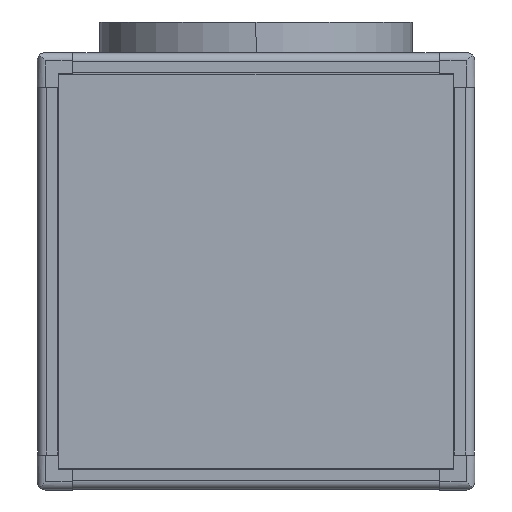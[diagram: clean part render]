
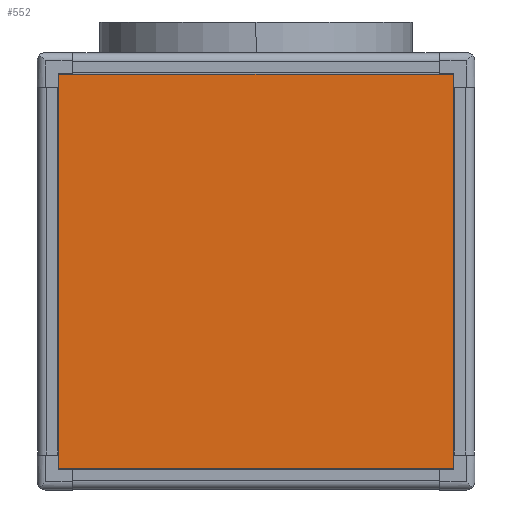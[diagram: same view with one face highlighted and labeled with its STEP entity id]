
A CAD part, front view. The second image highlights one B-rep face of the part: STEP entity #552.
In plain terms, the highlighted planar face has unit normal (0, -1, 0).
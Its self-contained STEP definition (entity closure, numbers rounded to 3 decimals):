
#552=ADVANCED_FACE('',(#1523),#1524,.T.);
#1523=FACE_OUTER_BOUND('',#3024,.T.);
#1524=PLANE('',#3025);
#3024=EDGE_LOOP('',(#5345,#5346,#5347,#5348));
#3025=AXIS2_PLACEMENT_3D('',#5349,#5350,#5351);
#5345=ORIENTED_EDGE('',*,*,#10631,.T.);
#5346=ORIENTED_EDGE('',*,*,#10624,.T.);
#5347=ORIENTED_EDGE('',*,*,#10616,.T.);
#5348=ORIENTED_EDGE('',*,*,#10608,.T.);
#5349=CARTESIAN_POINT('',(0.,-311.0,0.));
#5350=DIRECTION('',(0.,-1.0,0.));
#5351=DIRECTION('',(-1.0,0.,0.0));
#10608=EDGE_CURVE('',#14012,#14017,#14019,.T.);
#10616=EDGE_CURVE('',#14029,#14012,#14033,.T.);
#10624=EDGE_CURVE('',#14043,#14029,#14047,.T.);
#10631=EDGE_CURVE('',#14017,#14043,#14058,.T.);
#14012=VERTEX_POINT('',#20676);
#14017=VERTEX_POINT('',#20683);
#14019=LINE('',#20686,#20687);
#14029=VERTEX_POINT('',#20701);
#14033=LINE('',#20707,#20708);
#14043=VERTEX_POINT('',#20722);
#14047=LINE('',#20728,#20729);
#14058=LINE('',#20745,#20746);
#20676=CARTESIAN_POINT('',(284.0,-311.0,284.0));
#20683=CARTESIAN_POINT('',(-284.0,-311.0,284.0));
#20686=CARTESIAN_POINT('',(0.,-311.0,284.0));
#20687=VECTOR('',#26340,1.0);
#20701=CARTESIAN_POINT('',(284.0,-311.0,-284.0));
#20707=CARTESIAN_POINT('',(284.0,-311.0,0.));
#20708=VECTOR('',#26347,1.0);
#20722=CARTESIAN_POINT('',(-284.0,-311.0,-284.0));
#20728=CARTESIAN_POINT('',(0.,-311.0,-284.0));
#20729=VECTOR('',#26354,1.0);
#20745=CARTESIAN_POINT('',(-284.0,-311.0,0.));
#20746=VECTOR('',#26360,1.0);
#26340=DIRECTION('',(-1.0,0.,0.0));
#26347=DIRECTION('',(0.,0.,1.0));
#26354=DIRECTION('',(1.0,0.,0.0));
#26360=DIRECTION('',(0.,0.,-1.0));
